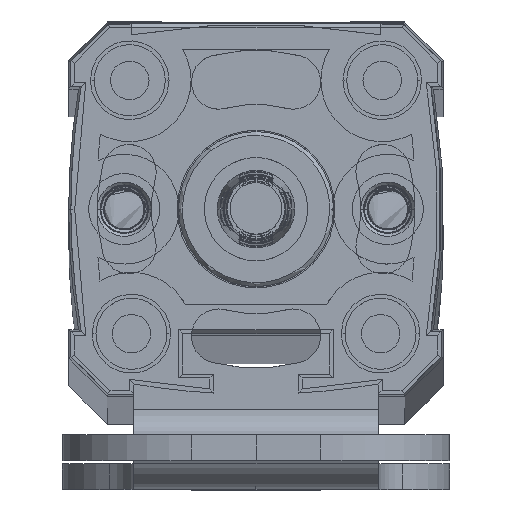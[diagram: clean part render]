
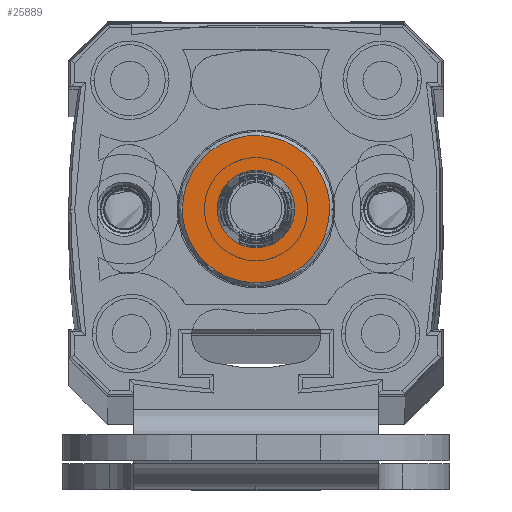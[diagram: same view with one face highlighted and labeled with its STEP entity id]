
A CAD part, top view. The second image highlights one B-rep face of the part: STEP entity #25889.
In plain terms, the highlighted planar face has unit normal (0, 0, 1).
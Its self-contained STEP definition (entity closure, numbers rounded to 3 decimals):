
#1264 = PLANE ( 'NONE',  #7967 ) ;
#1395 = DIRECTION ( 'NONE',  ( -1., 0., 0. ) ) ;
#5411 = FACE_BOUND ( 'NONE', #27281, .T. ) ;
#5937 = DIRECTION ( 'NONE',  ( 0., 0., -1. ) ) ;
#6048 = CARTESIAN_POINT ( 'NONE',  ( 5.7, 6.5, 12. ) ) ;
#6166 = CARTESIAN_POINT ( 'NONE',  ( 2., 6.5, 12. ) ) ;
#7253 = EDGE_CURVE ( 'NONE', #27428, #24098, #19345, .T. ) ;
#7967 = AXIS2_PLACEMENT_3D ( 'NONE', #22321, #10607, #26639 ) ;
#8340 = EDGE_CURVE ( 'NONE', #14502, #26910, #27131, .T. ) ;
#8637 = CARTESIAN_POINT ( 'NONE',  ( -5.7, 6.5, 12. ) ) ;
#9155 = CARTESIAN_POINT ( 'NONE',  ( -5.7, -4.9, 12. ) ) ;
#9469 = CARTESIAN_POINT ( 'NONE',  ( 0., 6.5, 12. ) ) ;
#9623 = CARTESIAN_POINT ( 'NONE',  ( 5.7, -4.9, 12. ) ) ;
#10548 = DIRECTION ( 'NONE',  ( -1., 0., 0. ) ) ;
#10607 = DIRECTION ( 'NONE',  ( 0., 0., 1. ) ) ;
#12079 = ORIENTED_EDGE ( 'NONE', *, *, #24660, .T. ) ;
#12308 = FACE_OUTER_BOUND ( 'NONE', #26116, .T. ) ;
#12659 = CARTESIAN_POINT ( 'NONE',  ( 5.7, 17.9, 12. ) ) ;
#12805 = CARTESIAN_POINT ( 'NONE',  ( -5.7, 6.5, 12. ) ) ;
#12875 = ORIENTED_EDGE ( 'NONE', *, *, #7253, .T. ) ;
#14502 = VERTEX_POINT ( 'NONE', #19186 ) ;
#14977 = EDGE_CURVE ( 'NONE', #26910, #14502, #18662, .T. ) ;
#15358 = DIRECTION ( 'NONE',  ( 0., 0., -1. ) ) ;
#18161 = ORIENTED_EDGE ( 'NONE', *, *, #14977, .F. ) ;
#18662 =( BOUNDED_CURVE ( )  B_SPLINE_CURVE ( 3, ( #12805, #27137, #12659, #6048 ),
 .UNSPECIFIED., .F., .F. ) 
 B_SPLINE_CURVE_WITH_KNOTS ( ( 4, 4 ),
 ( 0.5, 1. ),
 .UNSPECIFIED. ) 
 CURVE ( )  GEOMETRIC_REPRESENTATION_ITEM ( )  RATIONAL_B_SPLINE_CURVE ( ( 1., 0.333, 0.333, 1. ) ) 
 REPRESENTATION_ITEM ( '' )  );
#19186 = CARTESIAN_POINT ( 'NONE',  ( 5.7, 6.5, 12. ) ) ;
#19345 = CIRCLE ( 'NONE', #21804, 2. ) ;
#21220 = AXIS2_PLACEMENT_3D ( 'NONE', #9469, #15358, #1395 ) ;
#21804 = AXIS2_PLACEMENT_3D ( 'NONE', #29018, #5937, #10548 ) ;
#22321 = CARTESIAN_POINT ( 'NONE',  ( 0., 6.5, 12. ) ) ;
#24098 = VERTEX_POINT ( 'NONE', #27878 ) ;
#24506 = ORIENTED_EDGE ( 'NONE', *, *, #8340, .F. ) ;
#24660 = EDGE_CURVE ( 'NONE', #24098, #27428, #28580, .T. ) ;
#25889 = ADVANCED_FACE ( 'NONE', ( #5411, #12308 ), #1264, .T. ) ;
#25954 = CARTESIAN_POINT ( 'NONE',  ( 5.7, 6.5, 12. ) ) ;
#26116 = EDGE_LOOP ( 'NONE', ( #18161, #24506 ) ) ;
#26639 = DIRECTION ( 'NONE',  ( 1., 0., 0. ) ) ;
#26910 = VERTEX_POINT ( 'NONE', #8637 ) ;
#27131 =( BOUNDED_CURVE ( )  B_SPLINE_CURVE ( 3, ( #25954, #9623, #9155, #30379 ),
 .UNSPECIFIED., .F., .T. ) 
 B_SPLINE_CURVE_WITH_KNOTS ( ( 4, 4 ),
 ( 0., 0.5 ),
 .UNSPECIFIED. ) 
 CURVE ( )  GEOMETRIC_REPRESENTATION_ITEM ( )  RATIONAL_B_SPLINE_CURVE ( ( 1., 0.333, 0.333, 1. ) ) 
 REPRESENTATION_ITEM ( '' )  );
#27137 = CARTESIAN_POINT ( 'NONE',  ( -5.7, 17.9, 12. ) ) ;
#27281 = EDGE_LOOP ( 'NONE', ( #12079, #12875 ) ) ;
#27428 = VERTEX_POINT ( 'NONE', #6166 ) ;
#27878 = CARTESIAN_POINT ( 'NONE',  ( -2., 6.5, 12. ) ) ;
#28580 = CIRCLE ( 'NONE', #21220, 2. ) ;
#29018 = CARTESIAN_POINT ( 'NONE',  ( 0., 6.5, 12. ) ) ;
#30379 = CARTESIAN_POINT ( 'NONE',  ( -5.7, 6.5, 12. ) ) ;
